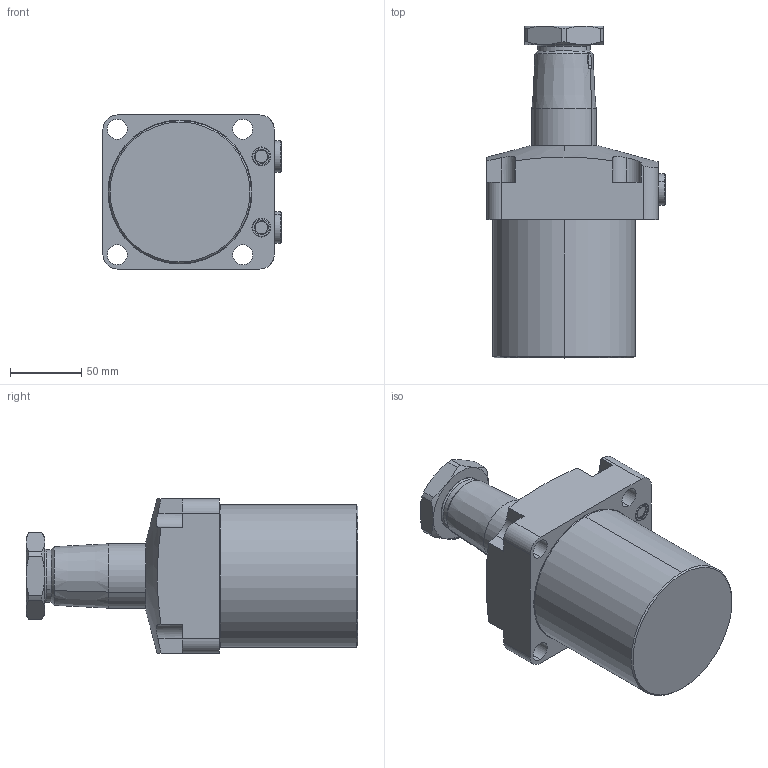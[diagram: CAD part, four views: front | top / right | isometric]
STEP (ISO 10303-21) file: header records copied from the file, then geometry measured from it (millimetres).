
FILE_DESCRIPTION(/* description */ (''),/* implementation_level */ '2;1');
FILE_NAME(/* name */ 'TRC25-LN30.stp',/* time_stamp */ '2025-01-04T09:33:16+08:00',/* author */ (''),/* organization */ (''),/* preprocessor_version */ 'ST-DEVELOPER v16.7',/* originating_system */ 'SIEMENS PLM Software NX 12.0',/* authorisation */ '');
FILE_SCHEMA (('AUTOMOTIVE_DESIGN { 1 0 10303 214 3 1 1 1 }'));
Length unit declared in the file: millimetre
Products named in the file (5): TRC25-LN30-04; TRC25-LN30-03; TRC25-LN30-02; TRC25-LN30-01; TRC25-LN30_stp
Assembly tree (5 placements, depth 2):
  TRC25-LN30_stp
    TRC25-LN30-01
    TRC25-LN30-02
    TRC25-LN30-03
    TRC25-LN30-04  x2
Bounding box: 124.8 x 232.5 x 108 mm (x, y, z)
Volume: 1413009.6 mm3; surface area: 110073 mm2
Topology: 5 solids, 7 shells, 203 faces, 465 edges, 288 vertices
Faces by surface type: cylinder 73, plane 67, cone 40, torus 22, sphere 1
Entity records: 5410 total; most frequent: CARTESIAN_POINT 1086, DIRECTION 938, ORIENTED_EDGE 836, EDGE_CURVE 418, AXIS2_PLACEMENT_3D 386, VERTEX_POINT 260, EDGE_LOOP 206, CIRCLE 199
